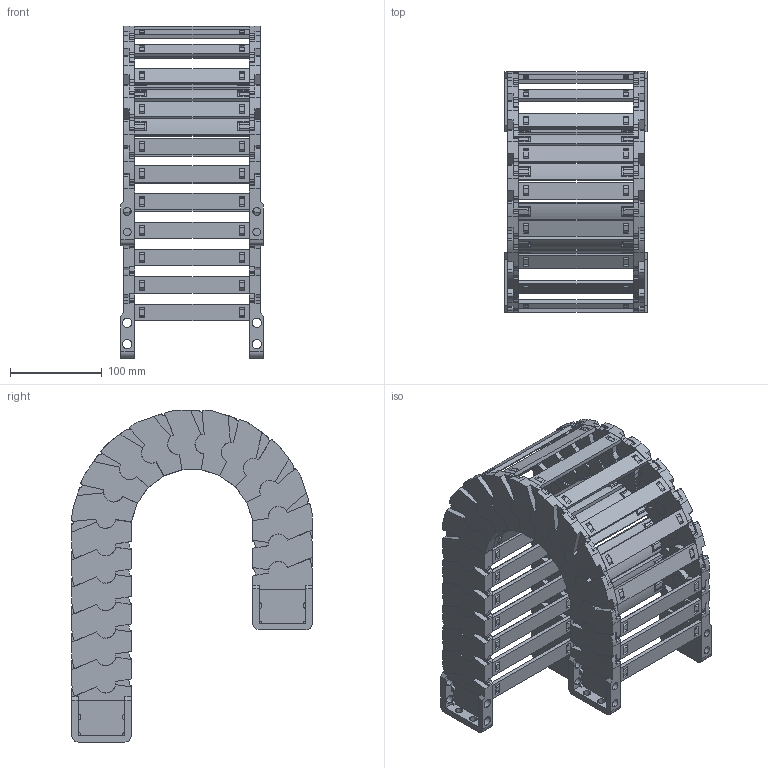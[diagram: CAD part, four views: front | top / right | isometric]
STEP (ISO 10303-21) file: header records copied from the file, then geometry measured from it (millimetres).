
FILE_DESCRIPTION((''),'2;1');
FILE_NAME('JY-52X125-R100_ASM','2022-05-06T09:08:25',('admin'),(''),'CREO PARAMETRIC BY PTC INC, 2021164','CREO PARAMETRIC BY PTC INC, 2021164','');
FILE_SCHEMA(('CONFIG_CONTROL_DESIGN','GEOMETRIC_VALIDATION_PROPERTIES_MIM'));
Length unit declared in the file: millimetre
Products named in the file (11): 52XL-L; 42-52X125-YP; 52XL-R; ASM0001_ASM; 52-LTT-A-L; 52-LTT-A-R; 52XL-LTT-A_ASM; 52-LTT-B-L; 52-LTT-B-R; 52XL-LTT-B_ASM; JY-52X125-R100_ASM
Assembly tree (31 placements, depth 3):
  JY-52X125-R100_ASM
    ASM0001_ASM  x17
      52XL-L
      42-52X125-YP
      52XL-R
    52XL-LTT-A_ASM
      52-LTT-A-L
      42-52X125-YP  x2
      52-LTT-A-R
    52XL-LTT-B_ASM
      52-LTT-B-L
      42-52X125-YP  x2
      52-LTT-B-R
Bounding box: 155.5 x 262.77 x 362.55 mm (x, y, z)
Volume: 1236983 mm3; surface area: 622346.6 mm2
Topology: 76 solids, 76 shells, 3900 faces, 11806 edges, 8056 vertices
Faces by surface type: plane 2770, cylinder 842, cone 288
Entity records: 19220 total; most frequent: CARTESIAN_POINT 3441, DIRECTION 3130, ORIENTED_EDGE 3124, EDGE_CURVE 1562, VECTOR 1074, LINE 1074, VERTEX_POINT 1056, AXIS2_PLACEMENT_3D 1028
